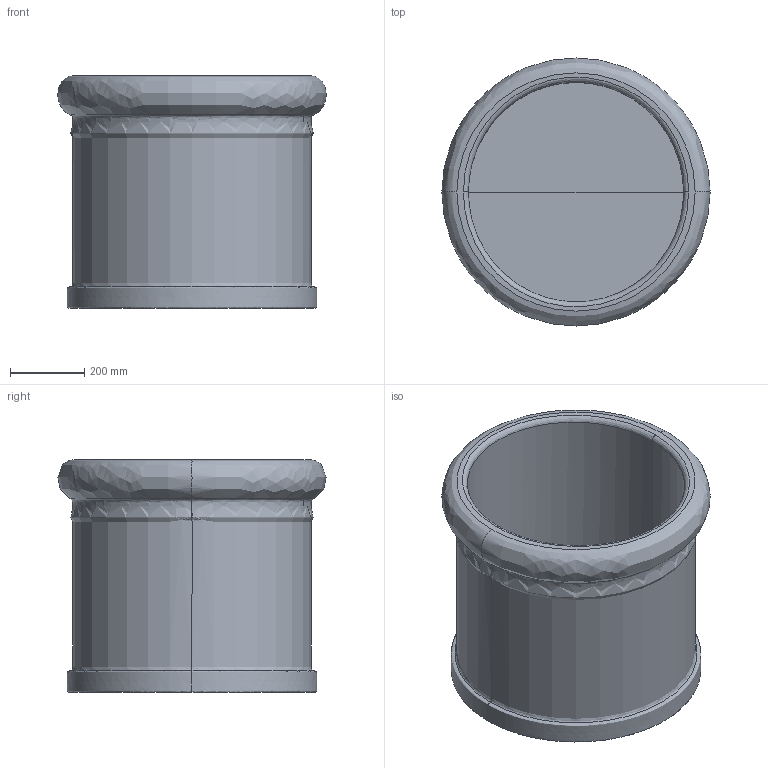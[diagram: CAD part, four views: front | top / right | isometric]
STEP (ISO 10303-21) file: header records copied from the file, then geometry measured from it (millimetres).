
FILE_DESCRIPTION(/* description */ (''),/* implementation_level */ '2;1');
FILE_NAME(/* name */ '72',/* time_stamp */ '2026-07-09T14:06:21+02:00',/* author */ (''),/* organization */ (''),/* preprocessor_version */ 'ST-DEVELOPER v19.2',/* originating_system */ 'Rhino 8.32',/* authorisation */ '');
FILE_SCHEMA (('CONFIG_CONTROL_DESIGN'));
Length unit declared in the file: millimetre
Products named in the file (1): Document
Bounding box: 720.13 x 720.02 x 623.66 mm (x, y, z)
Volume: 58225525.6 mm3; surface area: 3069117.9 mm2
Topology: 1 solids, 1 shells, 14 faces, 26 edges, 15 vertices
Faces by surface type: bspline 10, plane 4
Entity records: 947 total; most frequent: CARTESIAN_POINT 659, ORIENTED_EDGE 52, EDGE_CURVE 26, DIRECTION 26, EDGE_LOOP 15, VERTEX_POINT 15, AXIS2_PLACEMENT_3D 15, ADVANCED_FACE 14
